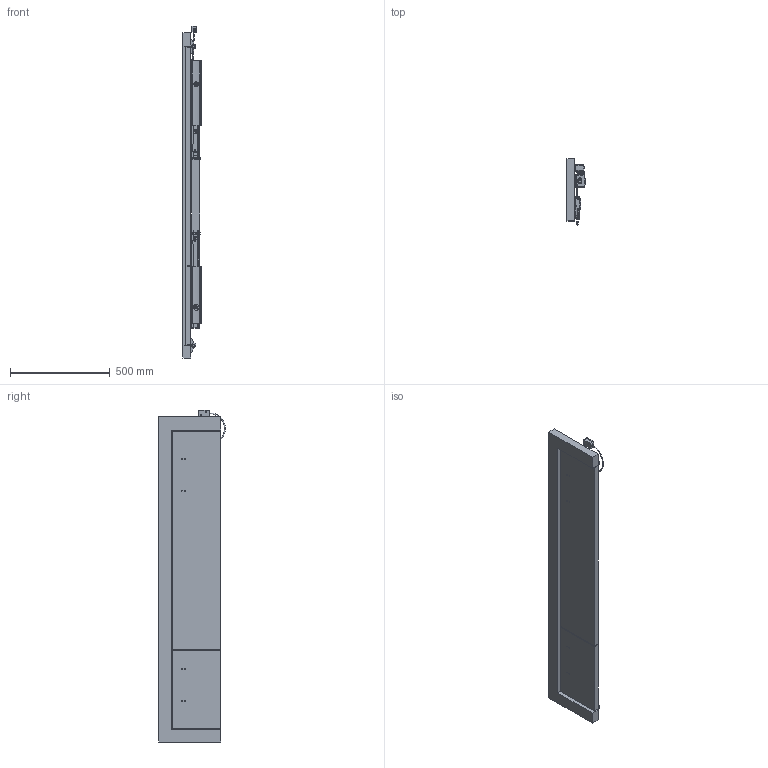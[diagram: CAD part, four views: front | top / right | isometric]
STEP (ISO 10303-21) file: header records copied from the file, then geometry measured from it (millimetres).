
FILE_DESCRIPTION(('Creo Elements/Direct Modeling STEP Export'),'2;1');
FILE_NAME('TS5000_ISM_EFS-20547-K-004_M_Montageplatte.stp','2015-05-20T10:54:06',(''),(''),'Creo Elements/Direct Modeling STEP processor for AP214 (Solid Model)','Creo Elements/Direct Modeling 17.0D 15-Jul-2011 (C) Parametric Technology GmbH','');
FILE_SCHEMA(('AUTOMOTIVE_DESIGN { 1 0 10303 214 1 1 1 1 }'));
Length unit declared in the file: millimetre
Products named in the file (45): Türblatt_SF; SF_TF; Türblatt_GF; Gf_TF; Rahmen; Band_Rahmen_GF; Band_Fluegel_GF; Band_Rahmen_SF; Band_Fluegel_SF; Baender; T1.1; Holztuer_Schliesser_TS5000; 20540-2-0305.2.1; 20540-6-0865.1.1; 20540-1-0135_SF_ISM; 20540-6-0926.2; 20540-1-0141_Zubehoer-Sichtkappen_40mm.1.1; 20540-2-0307.1.1; 20540-2-0308.1.1; 20540-2-0307.1.1.1; Einzelteile; Flachkopfschraube_ISO7045_M4x8H.3; ABC-Spax_5x55.1; Spannscheibe_DIN_6796-5-FST.1; 20540-1-0139_Schraubenzubehoer_E-ISM_ISM; 20540-2-0304.1.1; 20540-1-0134_GF_ISM; TS5000_IS-Gleitschiene; MONTAGEPLATTE_TS4000_TS5000.1; 91420A330.1; Schliesser.1; Schieber.1; Endkappe.1; Mitnehmer.1; Hebel.1; TS5000EFS; 20520-2-2170.1; Schraube_DIN912_M6x45_Mat_057153.2; 20525-2-0211.1.1; 20510-2-2036_EZ1.1.1.1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
Assembly tree (59 placements, depth 5):
  TS5000_ISM_EFS-20540-K-011
    Tueruebergangskabel_komplett.1
      Anschlusskasten.1
    MONTAGEPLATTE_TS4000E_TS5000E
    TS5000
      20510-2-2036_EZ1.1.1.1
      20525-2-0211.1.1
      Schraube_DIN912_M6x45_Mat_057153.2
      20520-2-2170.1
    TS5000EFS
      Hebel.1
      Mitnehmer.1
      Endkappe.1
      Schieber.1
      Schliesser.1
    91420A330.1  x8
    MONTAGEPLATTE_TS4000_TS5000.1
    TS5000_IS-Gleitschiene
      20540-1-0134_GF_ISM
        20540-2-0304.1.1
      20540-1-0139_Schraubenzubehoer_E-ISM_ISM
        Spannscheibe_DIN_6796-5-FST.1  x4
        Flachkopfschraube_ISO7045_M4x8H.3  x2
        ABC-Spax_5x55.1  x4
      Einzelteile
        20540-2-0307.1.1.1
        20540-2-0308.1.1
        20540-2-0307.1.1
        20540-1-0141_Zubehoer-Sichtkappen_40mm.1.1
          20540-6-0926.2  x2
      20540-1-0135_SF_ISM
        20540-6-0865.1.1
        20540-2-0305.2.1
    Holztuer_Schliesser_TS5000
      T1.1
      Baender
        Band_Fluegel_SF
        Band_Rahmen_SF
        Band_Fluegel_GF
        Band_Rahmen_GF
      Rahmen
      Gf_TF
        Türblatt_GF
      SF_TF
        Türblatt_SF
Bounding box: 91.43 x 334.43 x 1666.98 mm (x, y, z)
Volume: 16864357 mm3; surface area: 2114575.9 mm2
Topology: 44 solids, 48 shells, 6837 faces, 18219 edges, 11687 vertices
Faces by surface type: plane 3432, cylinder 1730, cone 1120, extrusion 386, torus 145, sphere 16, bspline 8
Entity records: 187946 total; most frequent: CARTESIAN_POINT 62623, ORIENTED_EDGE 27071, DIRECTION 22809, EDGE_CURVE 13538, VECTOR 10211, LINE 9825, VERTEX_POINT 8863, AXIS2_PLACEMENT_3D 6299
